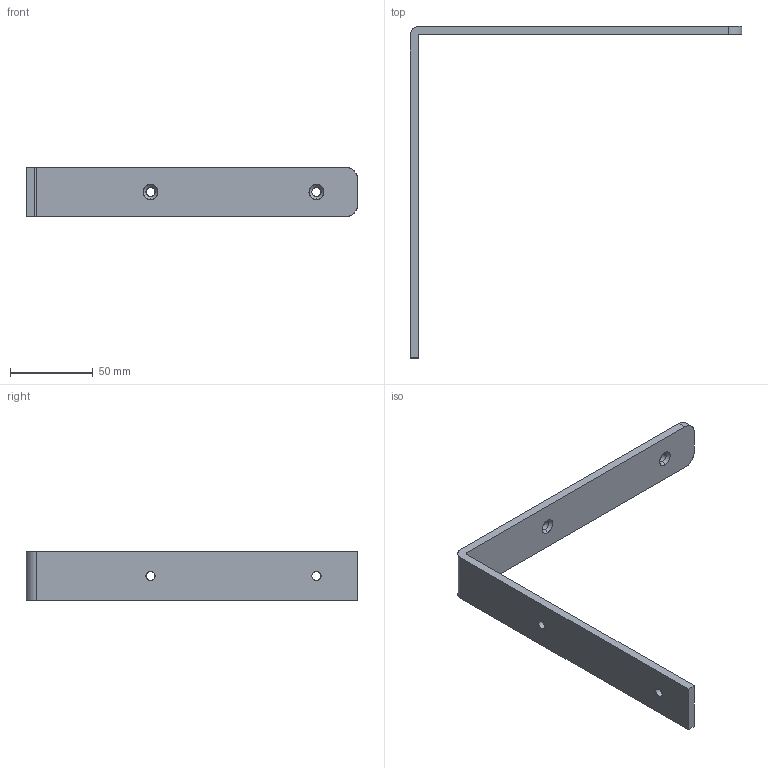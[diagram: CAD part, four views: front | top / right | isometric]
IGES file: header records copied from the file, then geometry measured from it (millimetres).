
Start section: SolidWorks IGES file using analytic representation for surfaces
Bounding box: 200 x 200 x 30 mm (x, y, z)
Surface area: 27856.2 mm2 (no closed solid volume)
Topology: 0 solids, 0 shells, 28 faces, 444 edges, 444 vertices
Faces by surface type: revolution 20, bspline 8
